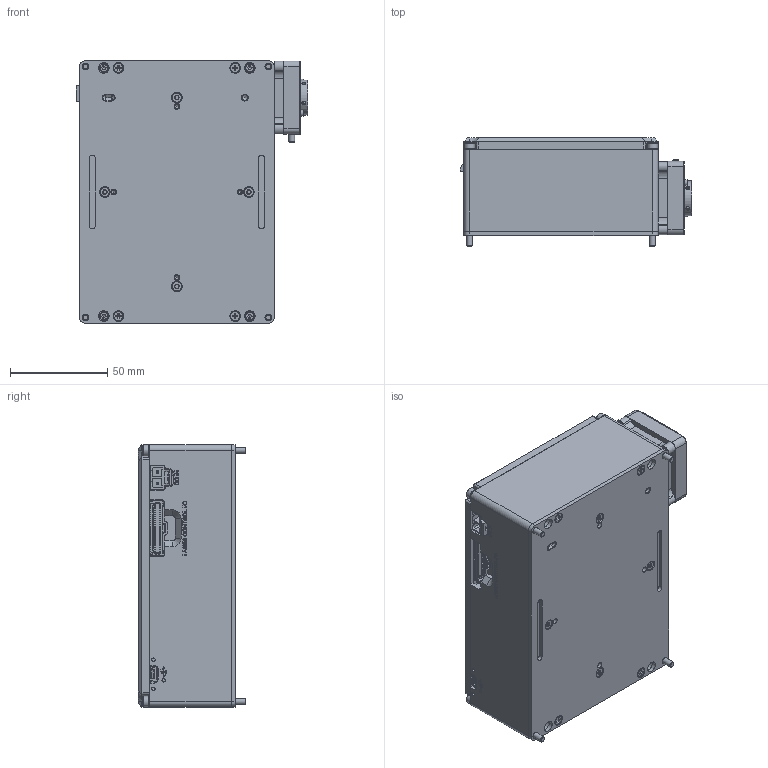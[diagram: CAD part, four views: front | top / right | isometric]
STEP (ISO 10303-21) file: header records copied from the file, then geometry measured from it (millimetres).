
FILE_DESCRIPTION (( 'STEP AP203' ), '1' );
FILE_NAME ('1384988rAA - ORCA 4G Defeatured.STEP', '2022-03-22T20:03:28', ( '' ), ( '' ), 'SwSTEP 2.0', 'SolidWorks 2019', '' );
FILE_SCHEMA (( 'CONFIG_CONTROL_DESIGN' ));
Length unit declared in the file: millimetre
Products named in the file (34): 1384445_01 - (Default); 1384594_01 - (Default); O-Ring,Viton,1.5x43mm^1384445; 92703A158_92703A158; socket head cap screw_coherent metric_B18.3.1M - 1.6 x 0.35 x 6 Hex SHCS -- 6NHXSSPL; 1384602_CENTERED; 1384356_01 - (Default); flat head screw_coherent metric_B18.6.7M - M2.5 x 0.45 x 6 Type I Cross Recessed FHMS --6NSSPL; 2260722; 2213119; 1416720; socket head cap screw_coherent metric_B18.3.1M - 2.5 x 0.45 x 16 Hex SHCS -- 16NHXSSPL; 2258058; 1384589_01 - (Default); o-rings_coherent inch_AS568 - 012VT; 1384386_01 - (Default); 2260163_92703A451; 1384988rAA - ORCA 4G Defeatured; 1384593_01 - (Default); 2225123; 1410803; 2258144 - Controller Firmware^1384988; 1383069_90910A941; 2258145 - Laser Head Firmware^1384988; 98689A112; socket head cap screw_coherent metric_B18.3.1M - 1.6 x 0.35 x 4 Hex SHCS -- 4NHXSSPL; 1393356_92703A143; 1384595_01 - (Default); 2260160; 1425865_01 - (Default)<As Machined>; socket head cap screw_coherent metric_B18.3.1M - 3 x 0.5 x 50 Hex SHCS -- 18NHXSSPL; 1431063; 1384484_01 - (Default)<As Machined>; 3M 2216^2258058
Assembly tree (69 placements, depth 4):
  1384988rAA - ORCA 4G Defeatured
    1416720
      1425865_01 - (Default)<As Machined>
      92703A158_92703A158  x4
      1431063
    1384445_01 - (Default)
      1384386_01 - (Default)
      1384356_01 - (Default)
      1383069_90910A941  x10
      socket head cap screw_coherent metric_B18.3.1M - 1.6 x 0.35 x 4 Hex SHCS -- 4NHXSSPL  x2
      socket head cap screw_coherent metric_B18.3.1M - 2.5 x 0.45 x 16 Hex SHCS -- 16NHXSSPL  x4
      2260722
      2213119
      2225123
      o-rings_coherent inch_AS568 - 012VT
      92703A158_92703A158  x3
      O-Ring,Viton,1.5x43mm^1384445
    socket head cap screw_coherent metric_B18.3.1M - 3 x 0.5 x 50 Hex SHCS -- 18NHXSSPL  x4
    flat head screw_coherent metric_B18.6.7M - M2.5 x 0.45 x 6 Type I Cross Recessed FHMS --6NSSPL  x4
    98689A112  x4
    1384602_CENTERED
      1384484_01 - (Default)<As Machined>
      2258058
        1384589_01 - (Default)
        1410803  x2
      2260160  x2
      1384595_01 - (Default)
      1384594_01 - (Default)
      1384593_01 - (Default)  x2
      socket head cap screw_coherent metric_B18.3.1M - 1.6 x 0.35 x 6 Hex SHCS -- 6NHXSSPL
      socket head cap screw_coherent metric_B18.3.1M - 1.6 x 0.35 x 4 Hex SHCS -- 4NHXSSPL  x2
      1393356_92703A143  x4
      2260163_92703A451  x4
  2258144 - Controller Firmware^1384988
  2258145 - Laser Head Firmware^1384988
  3M 2216^2258058
Bounding box: 119.02 x 55.5 x 135 mm (x, y, z)
Volume: 307917.5 mm3; surface area: 203145.6 mm2
Topology: 66 solids, 70 shells, 3905 faces, 9937 edges, 6399 vertices
Faces by surface type: plane 2230, cylinder 966, cone 391, bspline 241, torus 59, sphere 18
Full cylindrical faces by diameter (mm): 0.61 x4, 0.84 x4, 0.888 x2, 0.99 x3, 1.016 x6, 1.05 x1, 1.118 x1, 1.194 x4, 1.2 x4, 1.25 x5, 1.5 x7, 1.6 x37, 1.75 x2, 1.778 x2, 1.8 x3, 1.92 x2, 2 x4, 2.05 x33, 2.1 x5, 2.25 x1, 2.312 x4, 2.5 x29, 2.7 x10, 2.9 x23, 2.997 x2, 3 x11, 3.2 x5, 3.4 x8, 3.5 x3, 3.78 x4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
Entity records: 132668 total; most frequent: CARTESIAN_POINT 54799, ORIENTED_EDGE 15370, DIRECTION 13886, EDGE_CURVE 7703, VECTOR 5276, LINE 5276, VERTEX_POINT 5203, AXIS2_PLACEMENT_3D 4305
